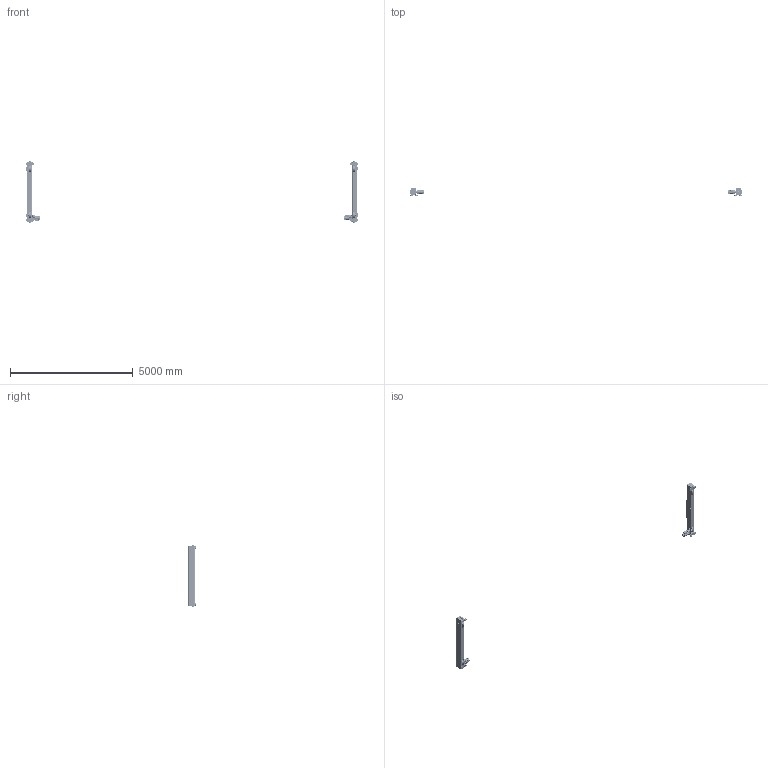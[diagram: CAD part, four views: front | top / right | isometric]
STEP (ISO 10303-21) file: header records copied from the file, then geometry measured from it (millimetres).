
FILE_DESCRIPTION (( 'STEP AP214' ), '1' );
FILE_NAME ('TMS-3-1060.STEP', '2026-08-12T20:10:05', ( '' ), ( '' ), 'SwSTEP 2.0', 'SolidWorks 2026', '' );
FILE_SCHEMA (( 'AUTOMOTIVE_DESIGN' ));
Length unit declared in the file: inch
Products named in the file (71): 9091272_9091272; N6WO975E91311; N6QO575E91341; G1JE075S9609; N6QO3751108; N6QO5751101; T1000-800-004_95.4375; 9000608; 9091274_9091274; 9012712_9012712; 62588; 6244510; G1JE075S9604; 6244512; N6QO375120; 9012711_9012711; 9091250_9091250; 9093327_9093327; 9091281_B18.3.1M - 8 x 1.25 x 65 Hex SHCS -- 65CHX; 6244504; 6244505; 6244521; 9047280_9047280; 9093329_9093329; N6QO575E91013; 6244515X_6244515D; 9012709_Rectangular section spring washer BS 4464 - 16 (Type B); 9091295_9091295; 62587; G1JM075S_ROTATED180 DEGREES; 6244513; N6QO375E9108; G1JM075S_NORMAL; 6244518; 9093350_9093350; G1JE075S9303; G1JE040S9701; 62440_6244002; 9012707_9012707; 62442_1060 - 40# & 45# RAIL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
Assembly tree (280 placements, depth 4):
  TMS-3-1060
    62442_1060 - 40# & 45# RAIL
      62440_6244002
        T1000-800-004_95.4375
        6244512
        6244521
        6244510
        6244510
        6244510
      6244516  x2
      6244507
      6244515X_6244515D  x2
        6244514X_6244514D
        6244522
      MS116050
      6244504
      6244505
      6244506
    62443_1060 - 40# & 45# RAIL
      62441_6244102
        T1000-800-004_95.4375
        6244512
        6244521
        6244510
        6244510
        6244510
      6244516  x2
      6244507
      6244515X_6244515D  x2
        6244514X_6244514D
        6244522
      6244504
      6244505
      6244506
      MS116050
    N6QO3751108  x8
      N6QO375E9108
      9000608
      9047280_9047280
    N6QO375120  x8
    9012711_9012711  x28
    9093327_9093327  x24
    N6QO375207  x4
    9012514_9012514  x4
    9093329_9093329  x4
    6244518  x4
    6244513  x4
    N6QO5751101  x2
      N6QO575E91013
      N6QO575E91341
      N6WO975E91311
      9000710
      9091295_9091295
      9012712_9012712
    N6QO5751102  x2
      N6QO575E9102
      9000710
    G1JM075S_NORMAL
      G1JE075S9303
      G1JE075S9310
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Bounding box: 13524.64 x 321.38 x 2540.16 mm (x, y, z)
Volume: 65416329.2 mm3; surface area: 14598273.1 mm2
Topology: 304 solids, 368 shells, 17058 faces, 43246 edges, 27584 vertices
Faces by surface type: plane 9104, cylinder 3804, bspline 1658, cone 1310, torus 940, sphere 242
Entity records: 171724 total; most frequent: CARTESIAN_POINT 67863, ORIENTED_EDGE 21438, DIRECTION 20268, EDGE_CURVE 10723, AXIS2_PLACEMENT_3D 7699, VERTEX_POINT 6809, LINE 4870, VECTOR 4870
